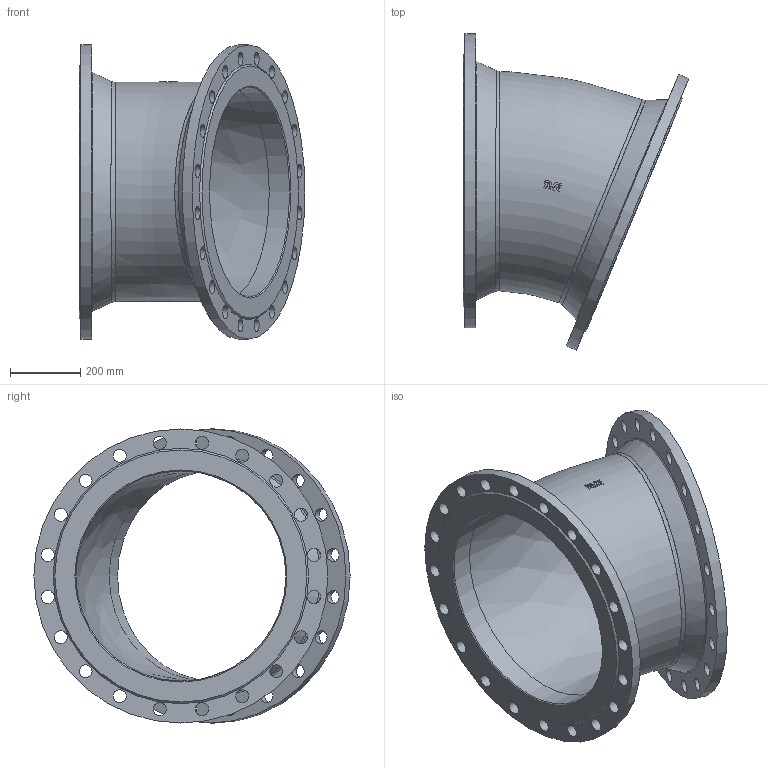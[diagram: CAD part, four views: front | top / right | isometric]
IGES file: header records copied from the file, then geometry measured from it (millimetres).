
Start section: SolidWorks IGES file using analytic representation for surfaces
Global section: file name: \\avksan2\techshare\PBM outline export from Enovia\O_712_0210_DN600_1X_REV01.igs; native system: SolidWorks 2022; preprocessor: SolidWorks 2022; author: pbm; date: 240815.143217; units: millimetre
Bounding box: 644.77 x 903.32 x 840 mm (x, y, z)
Surface area: 2971445.3 mm2 (no closed solid volume)
Topology: 0 solids, 0 shells, 103 faces, 510 edges, 454 vertices
Faces by surface type: revolution 60, bspline 43
